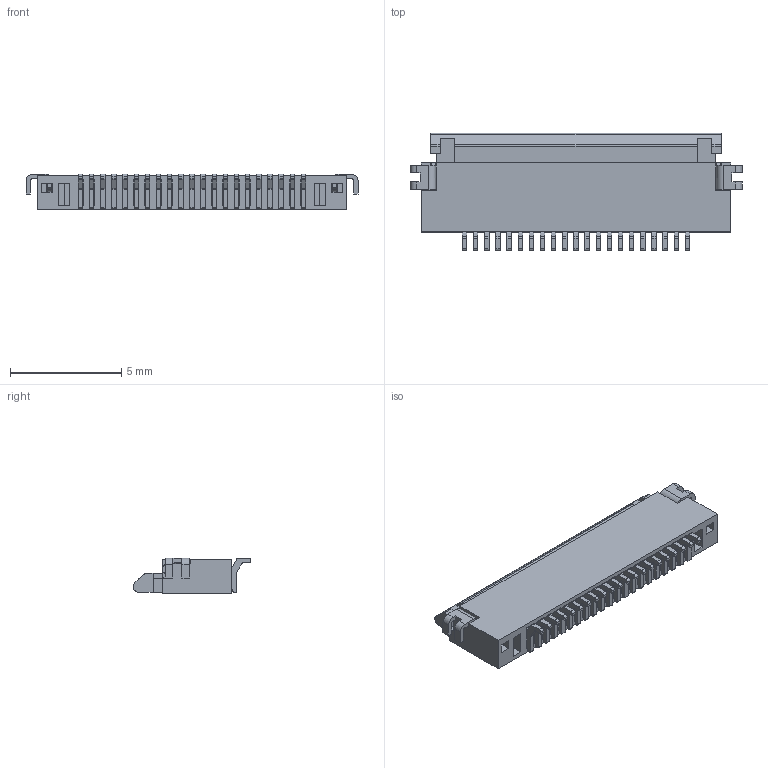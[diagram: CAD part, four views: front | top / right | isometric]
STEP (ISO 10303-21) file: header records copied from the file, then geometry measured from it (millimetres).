
FILE_DESCRIPTION((''),'2;1');
FILE_NAME('S-50506-021XX-XXX','2011-08-23T',('ouchwu'),(''),'PRO/ENGINEER BY PARAMETRIC TECHNOLOGY CORPORATION, 2007450','PRO/ENGINEER BY PARAMETRIC TECHNOLOGY CORPORATION, 2007450','');
FILE_SCHEMA(('CONFIG_CONTROL_DESIGN'));
Length unit declared in the file: millimetre
Products named in the file (1): S-50506-021XX-XXX
Bounding box: 14.9 x 5.29 x 1.6 mm (x, y, z)
Volume: 55 mm3; surface area: 466 mm2
Topology: 1 solids, 1 shells, 1361 faces, 4187 edges, 2742 vertices
Faces by surface type: plane 882, cylinder 479
Entity records: 46960 total; most frequent: ORIENTED_EDGE 8374, CARTESIAN_POINT 8317, DIRECTION 7947, EDGE_CURVE 4187, VECTOR 3133, LINE 3133, VERTEX_POINT 2742, AXIS2_PLACEMENT_3D 2407
